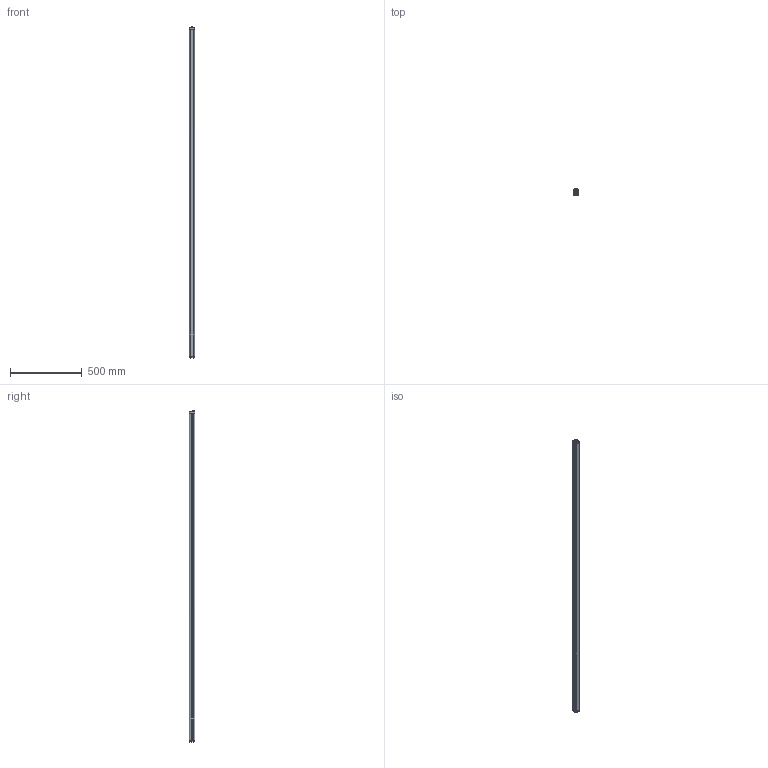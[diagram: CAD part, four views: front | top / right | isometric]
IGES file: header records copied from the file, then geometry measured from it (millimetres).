
Global section: file name: C:\Users\fguttadauro\Desktop\DSD-1023 DS2-05-07-225-JV _TX_IGS.igs; native system: NX V12.0; preprocessor: SIEMENS PLM Software NX 12.0; date: 20200721.161005; units: millimetre
Bounding box: 35.02 x 40.1 x 2314.97 mm (x, y, z)
Surface area: 453209.7 mm2 (no closed solid volume)
Topology: 0 solids, 0 shells, 1274 faces, 7576 edges, 7419 vertices
Faces by surface type: bspline 1274
